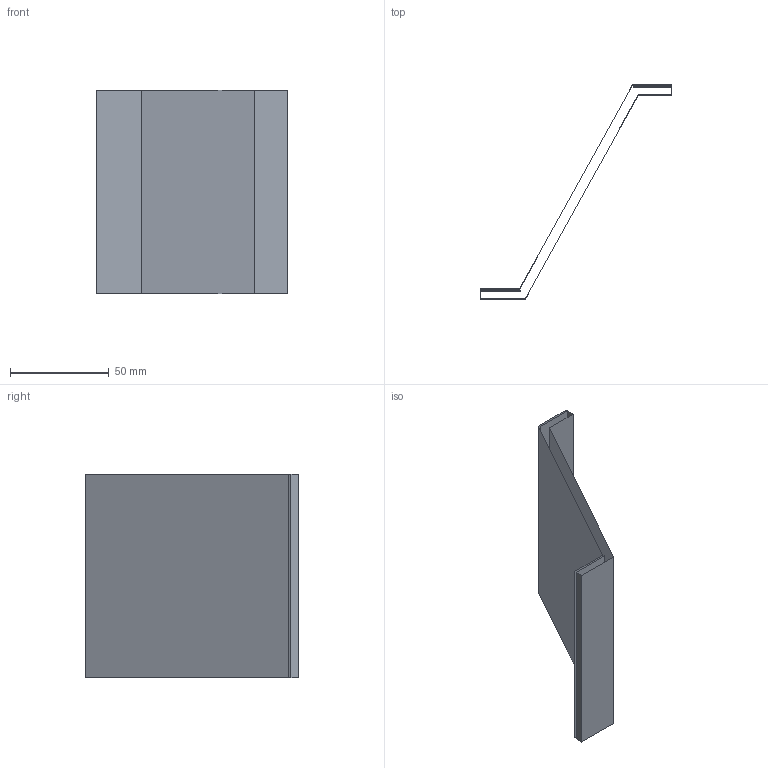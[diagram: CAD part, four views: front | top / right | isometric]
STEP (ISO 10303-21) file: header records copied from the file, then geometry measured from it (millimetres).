
FILE_DESCRIPTION(('CATIA V5 STEP Exchange'),'2;1');
FILE_NAME('C:\_Andres\UNIVERSIDAD\IQS\ASIGNATURAS\DAO\EXF\EXF-16172c\2inicio\Beteta_Pozo_Ej06_v3.stp','2017-03-05T21:01:22+00:00',('none'),('none'),'CATIA Version 5-6 Release 2014 SP1 HF18','CATIA V5 STEP AP203','none');
FILE_SCHEMA(('CONFIG_CONTROL_DESIGN'));
Length unit declared in the file: millimetre
Products named in the file (1): Beteta_Pozo_Ej06_v3
Bounding box: 97 x 108 x 103 mm (x, y, z)
Surface area: 37434.3 mm2 (no closed solid volume)
Topology: 0 solids, 2 shells, 10 faces, 42 edges, 36 vertices
Faces by surface type: plane 10
Entity records: 461 total; most frequent: CARTESIAN_POINT 100, DIRECTION 59, ORIENTED_EDGE 40, VECTOR 39, LINE 39, EDGE_CURVE 32, VERTEX_POINT 24, AXIS2_PLACEMENT_3D 11
